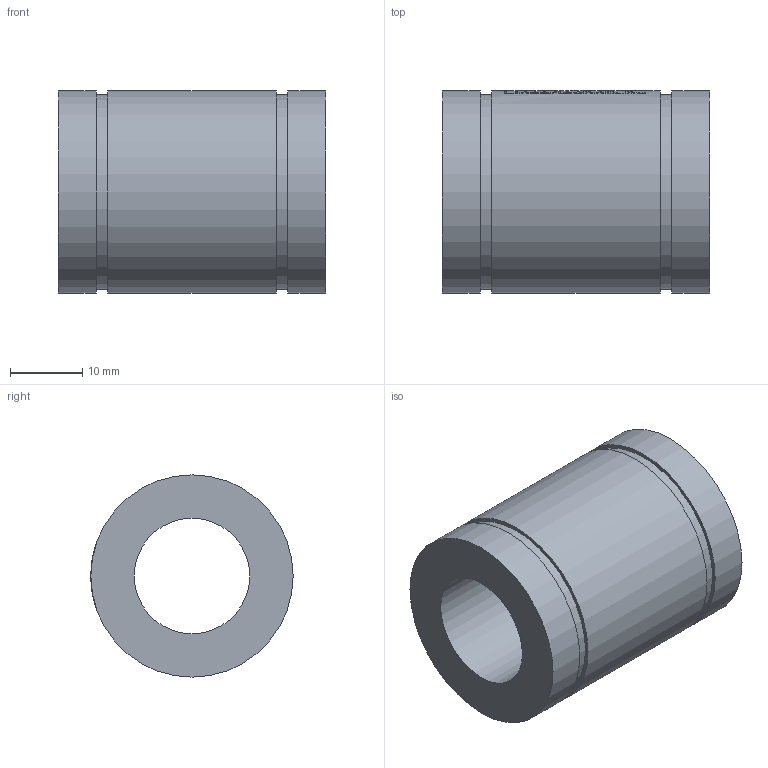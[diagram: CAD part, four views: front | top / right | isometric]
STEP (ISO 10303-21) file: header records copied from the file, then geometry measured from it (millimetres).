
FILE_DESCRIPTION(/* description */ ('Huosing for flange nuts'),/* implementation_level */ '2;1');
FILE_NAME(/* name */ 'LM16UU',/* time_stamp */ '2019-05-07T14:07:53+02:00',/* author */ ('VĂ©gh MĂˇtĂ©'),/* organization */ ('Bearing Kft'),/* preprocessor_version */ 'ST-DEVELOPER v16.7',/* originating_system */ 'DEX',/* authorisation */ $);
FILE_SCHEMA (('AUTOMOTIVE_DESIGN {1 0 10303 214 3 1 1}'));
Length unit declared in the file: millimetre
Products named in the file (1): LM16UU
Bounding box: 37 x 28 x 28 mm (x, y, z)
Volume: 15202.2 mm3; surface area: 6128.7 mm2
Topology: 1 solids, 1 shells, 301 faces, 753 edges, 503 vertices
Faces by surface type: plane 156, bspline 94, cylinder 51
Full cylindrical faces by diameter (mm): 16 x1, 27 x2, 28 x3
Entity records: 15273 total; most frequent: CARTESIAN_POINT 8571, ORIENTED_EDGE 1486, DIRECTION 1112, EDGE_CURVE 743, VERTEX_POINT 501, LINE 410, VECTOR 410, EDGE_LOOP 360
